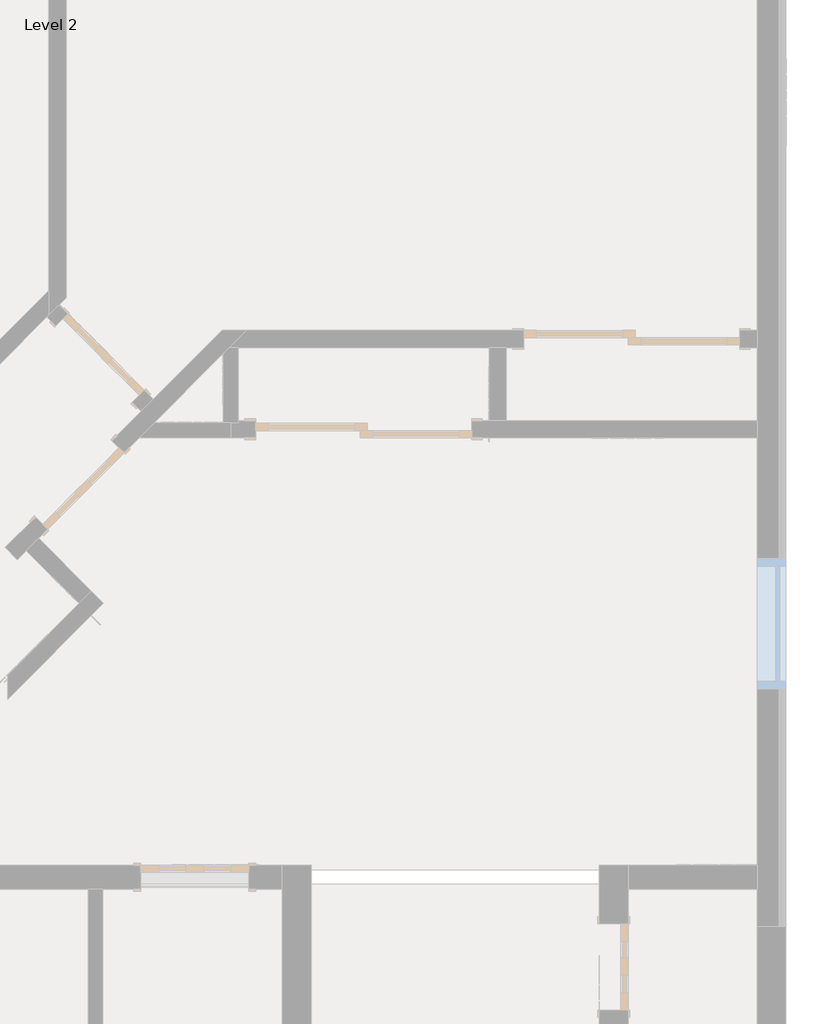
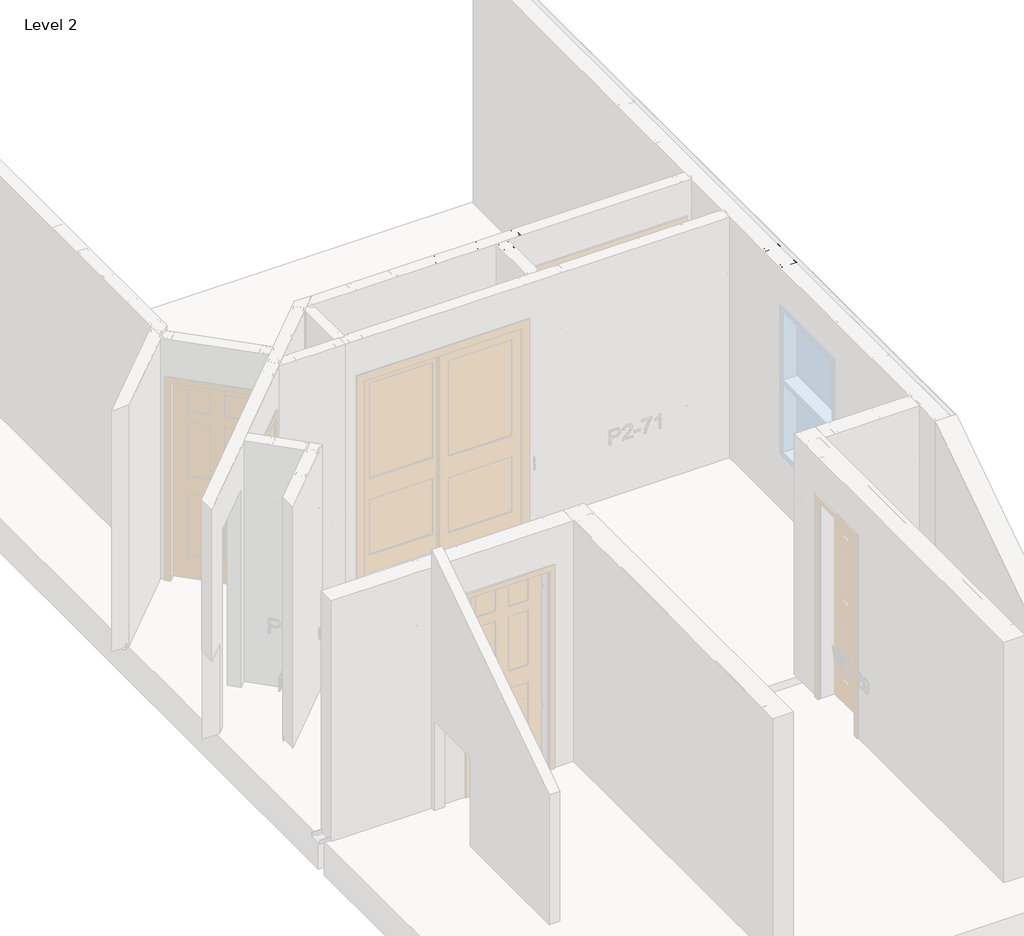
# One storey, part 42 of 46: 7 columns, 1 beam, 1 fastener.
"""IFC4 building model written with IfcOpenShell, lengths in millimetres."""

from ifc_helpers import new_model, si_unit, point, frame, origin, place, context, project, spatial, circle_curve, ellipse_curve, trimmed, transform, mapped, element, save
from ifc_brep_helpers import plane_surface, extruded_surface, advanced_brep
from components import beam_550nf150_43_f91dca98, column_350nf150_33_a93e9d8a, panellabel_e37a929f

model = new_model("IFC4")

# Units and contexts
model_context = context("Model", 3, world=origin())
ifc_project = project(units=[si_unit("LENGTHUNIT", "METRE", prefix="MILLI")], contexts=[model_context])

# Site, building, storey
site = spatial("IfcSite", under=ifc_project)
building = spatial("IfcBuilding", under=site)
storey = spatial("IfcBuildingStorey", under=building, Name="Level 2", Elevation=3060.7)

# Beam
placement = place(None, origin())
beam_550nf150_43_shape = beam_550nf150_43_f91dca98(model_context)
element("IfcBeam", 1, ObjectType="BIMSF-SSMA-S : 550NF150-43", at=placement, inside=storey, context=model_context, shape_type="MappedRepresentation", body=[
    mapped(beam_550nf150_43_shape, transform((-3141.7913349, 8242.9332511, 3600.45), x_axis=(0.0, -1.0, 0.0), y_axis=(0.0, 0.0, 1.0), z_axis=(-1.0, 0.0, 0.0))),
])

# Columns
element("IfcColumn", 2, ObjectType="BIMSF-SSMA-S-Column : 350NF150-33", at=placement, inside=storey, context=model_context, shape_type="AdvancedBrep", body=[
    advanced_brep(
    [(-5691.4118616, 10206.6707511, 3061.5929687), (-5691.4118616, 10295.5707511, 3061.5929687), (-5653.3118616, 10295.5707511, 3061.5929687), (-5653.3118616, 10289.9132353, 3061.5929687), (-5654.1941774, 10289.9132353, 3061.5929687), (-5654.1941774, 10294.6884353, 3061.5929687), (-5690.5295459, 10294.6884353, 3061.5929687), (-5690.5295459, 10207.5530669, 3061.5929687), (-5654.1941774, 10207.5530669, 3061.5929687), (-5654.1941774, 10212.3282669, 3061.5929687), (-5653.3118616, 10212.3282669, 3061.5929687), (-5653.3118616, 10206.6707511, 3061.5929687), (-5691.4118616, 10206.6707511, 5523.6070313), (-5691.4118616, 10295.5707511, 5523.6070313), (-5691.4118616, 10263.8207511, 3671.1929688), (-5691.4118616, 10238.4207511, 3671.1929688), (-5691.4118616, 10263.8207511, 4890.3929687), (-5691.4118616, 10238.4207511, 4890.3929687), (-5653.3118616, 10295.5707511, 5523.6070313), (-5653.3118616, 10289.9132353, 5523.6070313), (-5654.1941774, 10289.9132353, 5523.6070313), (-5654.1941774, 10294.6884353, 5523.6070313), (-5690.5295459, 10294.6884353, 5523.6070313), (-5690.5295459, 10207.5530669, 5523.6070313), (-5690.5295459, 10238.4207511, 3671.1929688), (-5690.5295459, 10263.8207511, 3671.1929688), (-5690.5295459, 10238.4207511, 4890.3929687), (-5690.5295459, 10263.8207511, 4890.3929687), (-5654.1941774, 10207.5530669, 5523.6070313), (-5654.1941774, 10212.3282669, 5523.6070313), (-5653.3118616, 10212.3282669, 5523.6070313), (-5653.3118616, 10206.6707511, 5523.6070313)],
    [
        (0, 1),
        (1, 2),
        (2, 3),
        (3, 4),
        (4, 5),
        (5, 6),
        (6, 7),
        (7, 8),
        (8, 9),
        (9, 10),
        (10, 11),
        (11, 0),
        (0, 12),
        (12, 13),
        (13, 1),
        (14, 15, circle_curve(frame((-5691.4118616, 10251.1207511, 3671.1929687), z_axis=(1.0, 0.0, 0.0), x_axis=(0.0, 1.0, 0.0)), 12.7)),
        (15, 14, circle_curve(frame((-5691.4118616, 10251.1207511, 3671.1929687), z_axis=(1.0, 0.0, 0.0), x_axis=(0.0, 1.0, 0.0)), 12.7)),
        (16, 17, circle_curve(frame((-5691.4118616, 10251.1207511, 4890.3929687), z_axis=(1.0, 0.0, 0.0), x_axis=(0.0, 1.0, 0.0)), 12.7)),
        (17, 16, circle_curve(frame((-5691.4118616, 10251.1207511, 4890.3929687), z_axis=(1.0, 0.0, 0.0), x_axis=(0.0, 1.0, 0.0)), 12.7)),
        (13, 18),
        (18, 2),
        (18, 19),
        (19, 3),
        (19, 20),
        (20, 4),
        (20, 21),
        (21, 5),
        (21, 22),
        (22, 6),
        (22, 23),
        (23, 7),
        (24, 25, circle_curve(frame((-5690.5295459, 10251.1207511, 3671.1929688), z_axis=(-1.0, 0.0, 0.0), x_axis=(0.0, 1.0, 0.0)), 12.7)),
        (25, 24, circle_curve(frame((-5690.5295459, 10251.1207511, 3671.1929688), z_axis=(-1.0, 0.0, 0.0), x_axis=(0.0, 1.0, 0.0)), 12.7)),
        (26, 27, circle_curve(frame((-5690.5295459, 10251.1207511, 4890.3929687), z_axis=(-1.0, 0.0, 0.0), x_axis=(0.0, 1.0, 0.0)), 12.7)),
        (27, 26, circle_curve(frame((-5690.5295459, 10251.1207511, 4890.3929687), z_axis=(-1.0, 0.0, 0.0), x_axis=(0.0, 1.0, 0.0)), 12.7)),
        (23, 28),
        (28, 8),
        (28, 29),
        (29, 9),
        (29, 30),
        (30, 10),
        (30, 31),
        (31, 11),
        (31, 12),
        (24, 15),
        (14, 25),
        (26, 17),
        (16, 27),
    ],
    [
        plane_surface(frame((-5691.4118616, 10206.6707511, 3061.5929687), z_axis=(0.0, 0.0, -1.0), x_axis=(-1.0, 0.0, 0.0))),
        plane_surface(frame((-5691.4118616, 10295.5707511, 5523.6070313), z_axis=(-1.0, 0.0, 0.0), x_axis=(0.0, 0.0, -1.0))),
        plane_surface(frame((-5653.3118616, 10295.5707511, 5523.6070313), z_axis=(0.0, 1.0, 0.0), x_axis=(0.0, 0.0, -1.0))),
        plane_surface(frame((-5653.3118616, 10289.9132353, 5523.6070313), z_axis=(1.0, 0.0, 0.0), x_axis=(0.0, 0.0, -1.0))),
        plane_surface(frame((-5654.1941774, 10289.9132353, 5523.6070313), z_axis=(0.0, -1.0, 0.0), x_axis=(0.0, 0.0, -1.0))),
        plane_surface(frame((-5654.1941774, 10294.6884353, 5523.6070313), z_axis=(-1.0, 0.0, 0.0), x_axis=(0.0, 0.0, -1.0))),
        plane_surface(frame((-5690.5295459, 10294.6884353, 5523.6070313), z_axis=(0.0, -1.0, 0.0), x_axis=(0.0, 0.0, -1.0))),
        plane_surface(frame((-5690.5295459, 10207.5530669, 5523.6070313), z_axis=(1.0, 0.0, 0.0), x_axis=(0.0, 0.0, -1.0))),
        plane_surface(frame((-5654.1941774, 10207.5530669, 5523.6070313), z_axis=(0.0, 1.0, 0.0), x_axis=(0.0, 0.0, -1.0))),
        plane_surface(frame((-5654.1941774, 10212.3282669, 5523.6070313), z_axis=(-1.0, 0.0, 0.0), x_axis=(0.0, 0.0, -1.0))),
        plane_surface(frame((-5653.3118616, 10212.3282669, 5523.6070313), z_axis=(0.0, 1.0, 0.0), x_axis=(0.0, 0.0, -1.0))),
        plane_surface(frame((-5653.3118616, 10206.6707511, 5523.6070313), z_axis=(1.0, 0.0, 0.0), x_axis=(0.0, 0.0, -1.0))),
        plane_surface(frame((-5691.4118616, 10206.6707511, 5523.6070313), z_axis=(0.0, -1.0, 0.0), x_axis=(0.0, 0.0, -1.0))),
        plane_surface(frame((-5691.4118616, 10206.6707511, 5523.6070313), z_axis=(0.0, 0.0, 1.0), x_axis=(1.0, 0.0, 0.0))),
        extruded_surface(trimmed(ellipse_curve(frame((-3210.3477991, 10251.1207511, 3671.1929688), z_axis=(-1.0, 0.0, 0.0), x_axis=(0.0, 1.0, 0.0)), 12.7, 12.7), [point((-3210.3477991, 10238.4207511, 3671.1929688))], [point((-3210.3477991, 10263.8207511, 3671.1929688))], True, "CARTESIAN"), (4924.028125, 0.0, 0.0), 4924.028125),
        extruded_surface(trimmed(ellipse_curve(frame((-3210.3477991, 10251.1207511, 3671.1929688), z_axis=(-1.0, 0.0, 0.0), x_axis=(0.0, 1.0, 0.0)), 12.7, 12.7), [point((-3210.3477991, 10263.8207511, 3671.1929688))], [point((-3210.3477991, 10238.4207511, 3671.1929688))], True, "CARTESIAN"), (4924.028125, 0.0, 0.0), 4924.028125),
        extruded_surface(trimmed(ellipse_curve(frame((-3210.3477991, 10251.1207511, 4890.3929687), z_axis=(-1.0, 0.0, 0.0), x_axis=(0.0, 1.0, 0.0)), 12.7, 12.7), [point((-3210.3477991, 10238.4207511, 4890.3929687))], [point((-3210.3477991, 10263.8207511, 4890.3929687))], True, "CARTESIAN"), (4924.028125, 0.0, 0.0), 4924.028125),
        extruded_surface(trimmed(ellipse_curve(frame((-3210.3477991, 10251.1207511, 4890.3929687), z_axis=(-1.0, 0.0, 0.0), x_axis=(0.0, 1.0, 0.0)), 12.7, 12.7), [point((-3210.3477991, 10263.8207511, 4890.3929687))], [point((-3210.3477991, 10238.4207511, 4890.3929687))], True, "CARTESIAN"), (4924.028125, 0.0, 0.0), 4924.028125),
    ],
    [
        (0, [[1, 2, 3, 4, 5, 6, 7, 8, 9, 10, 11, 12]]),
        (1, [[-1, 13, 14, 15], [16, 17], [18, 19]]),
        (2, [[-2, -15, 20, 21]]),
        (3, [[-3, -21, 22, 23]]),
        (4, [[-4, -23, 24, 25]]),
        (5, [[-5, -25, 26, 27]]),
        (6, [[-6, -27, 28, 29]]),
        (7, [[-7, -29, 30, 31], [32, 33], [34, 35]]),
        (8, [[-8, -31, 36, 37]]),
        (9, [[-9, -37, 38, 39]]),
        (10, [[-10, -39, 40, 41]]),
        (11, [[-11, -41, 42, 43]]),
        (12, [[-12, -43, 44, -13]]),
        (13, [[-14, -44, -42, -40, -38, -36, -30, -28, -26, -24, -22, -20]]),
        (14, [[45, -16, 46, -32]]),
        (15, [[-45, -33, -46, -17]]),
        (16, [[47, -18, 48, -34]]),
        (17, [[-47, -35, -48, -19]]),
    ],
),
])
element("IfcColumn", 3, ObjectType="BIMSF-SSMA-S-Column : 350NF150-33", at=placement, inside=storey, context=model_context, shape_type="AdvancedBrep", body=[
    advanced_brep(
    [(-5285.0118616, 10206.6707511, 3061.5929687), (-5285.0118616, 10295.5707511, 3061.5929687), (-5246.9118616, 10295.5707511, 3061.5929687), (-5246.9118616, 10289.9132353, 3061.5929687), (-5247.7941774, 10289.9132353, 3061.5929687), (-5247.7941774, 10294.6884353, 3061.5929687), (-5284.1295459, 10294.6884353, 3061.5929687), (-5284.1295459, 10207.5530669, 3061.5929687), (-5247.7941774, 10207.5530669, 3061.5929687), (-5247.7941774, 10212.3282669, 3061.5929687), (-5246.9118616, 10212.3282669, 3061.5929687), (-5246.9118616, 10206.6707511, 3061.5929687), (-5285.0118616, 10206.6707511, 5523.6070313), (-5285.0118616, 10295.5707511, 5523.6070313), (-5285.0118616, 10263.8207511, 3671.1929687), (-5285.0118616, 10238.4207511, 3671.1929687), (-5285.0118616, 10263.8207511, 4890.3929687), (-5285.0118616, 10238.4207511, 4890.3929687), (-5246.9118616, 10295.5707511, 5523.6070313), (-5246.9118616, 10289.9132353, 5523.6070313), (-5247.7941774, 10289.9132353, 5523.6070313), (-5247.7941774, 10294.6884353, 5523.6070313), (-5284.1295459, 10294.6884353, 5523.6070313), (-5284.1295459, 10207.5530669, 5523.6070313), (-5284.1295459, 10238.4207511, 3671.1929688), (-5284.1295459, 10263.8207511, 3671.1929688), (-5284.1295459, 10238.4207511, 4890.3929687), (-5284.1295459, 10263.8207511, 4890.3929687), (-5247.7941774, 10207.5530669, 5523.6070313), (-5247.7941774, 10212.3282669, 5523.6070313), (-5246.9118616, 10212.3282669, 5523.6070313), (-5246.9118616, 10206.6707511, 5523.6070313)],
    [
        (0, 1),
        (1, 2),
        (2, 3),
        (3, 4),
        (4, 5),
        (5, 6),
        (6, 7),
        (7, 8),
        (8, 9),
        (9, 10),
        (10, 11),
        (11, 0),
        (0, 12),
        (12, 13),
        (13, 1),
        (14, 15, circle_curve(frame((-5285.0118616, 10251.1207511, 3671.1929687), z_axis=(1.0, 0.0, 0.0), x_axis=(0.0, 1.0, 0.0)), 12.7)),
        (15, 14, circle_curve(frame((-5285.0118616, 10251.1207511, 3671.1929687), z_axis=(1.0, 0.0, 0.0), x_axis=(0.0, 1.0, 0.0)), 12.7)),
        (16, 17, circle_curve(frame((-5285.0118616, 10251.1207511, 4890.3929687), z_axis=(1.0, 0.0, 0.0), x_axis=(0.0, 1.0, 0.0)), 12.7)),
        (17, 16, circle_curve(frame((-5285.0118616, 10251.1207511, 4890.3929687), z_axis=(1.0, 0.0, 0.0), x_axis=(0.0, 1.0, 0.0)), 12.7)),
        (13, 18),
        (18, 2),
        (18, 19),
        (19, 3),
        (19, 20),
        (20, 4),
        (20, 21),
        (21, 5),
        (21, 22),
        (22, 6),
        (22, 23),
        (23, 7),
        (24, 25, circle_curve(frame((-5284.1295459, 10251.1207511, 3671.1929687), z_axis=(-1.0, 0.0, 0.0), x_axis=(0.0, 1.0, 0.0)), 12.7)),
        (25, 24, circle_curve(frame((-5284.1295459, 10251.1207511, 3671.1929687), z_axis=(-1.0, 0.0, 0.0), x_axis=(0.0, 1.0, 0.0)), 12.7)),
        (26, 27, circle_curve(frame((-5284.1295459, 10251.1207511, 4890.3929687), z_axis=(-1.0, 0.0, 0.0), x_axis=(0.0, 1.0, 0.0)), 12.7)),
        (27, 26, circle_curve(frame((-5284.1295459, 10251.1207511, 4890.3929687), z_axis=(-1.0, 0.0, 0.0), x_axis=(0.0, 1.0, 0.0)), 12.7)),
        (23, 28),
        (28, 8),
        (28, 29),
        (29, 9),
        (29, 30),
        (30, 10),
        (30, 31),
        (31, 11),
        (31, 12),
        (24, 15),
        (14, 25),
        (26, 17),
        (16, 27),
    ],
    [
        plane_surface(frame((-5285.0118616, 10206.6707511, 3061.5929687), z_axis=(0.0, 0.0, -1.0), x_axis=(-1.0, 0.0, 0.0))),
        plane_surface(frame((-5285.0118616, 10295.5707511, 5523.6070313), z_axis=(-1.0, 0.0, 0.0), x_axis=(0.0, 0.0, -1.0))),
        plane_surface(frame((-5246.9118616, 10295.5707511, 5523.6070313), z_axis=(0.0, 1.0, 0.0), x_axis=(0.0, 0.0, -1.0))),
        plane_surface(frame((-5246.9118616, 10289.9132353, 5523.6070313), z_axis=(1.0, 0.0, 0.0), x_axis=(0.0, 0.0, -1.0))),
        plane_surface(frame((-5247.7941774, 10289.9132353, 5523.6070313), z_axis=(0.0, -1.0, 0.0), x_axis=(0.0, 0.0, -1.0))),
        plane_surface(frame((-5247.7941774, 10294.6884353, 5523.6070313), z_axis=(-1.0, 0.0, 0.0), x_axis=(0.0, 0.0, -1.0))),
        plane_surface(frame((-5284.1295459, 10294.6884353, 5523.6070313), z_axis=(0.0, -1.0, 0.0), x_axis=(0.0, 0.0, -1.0))),
        plane_surface(frame((-5284.1295459, 10207.5530669, 5523.6070313), z_axis=(1.0, 0.0, 0.0), x_axis=(0.0, 0.0, -1.0))),
        plane_surface(frame((-5247.7941774, 10207.5530669, 5523.6070313), z_axis=(0.0, 1.0, 0.0), x_axis=(0.0, 0.0, -1.0))),
        plane_surface(frame((-5247.7941774, 10212.3282669, 5523.6070313), z_axis=(-1.0, 0.0, 0.0), x_axis=(0.0, 0.0, -1.0))),
        plane_surface(frame((-5246.9118616, 10212.3282669, 5523.6070313), z_axis=(0.0, 1.0, 0.0), x_axis=(0.0, 0.0, -1.0))),
        plane_surface(frame((-5246.9118616, 10206.6707511, 5523.6070313), z_axis=(1.0, 0.0, 0.0), x_axis=(0.0, 0.0, -1.0))),
        plane_surface(frame((-5285.0118616, 10206.6707511, 5523.6070313), z_axis=(0.0, -1.0, 0.0), x_axis=(0.0, 0.0, -1.0))),
        plane_surface(frame((-5285.0118616, 10206.6707511, 5523.6070313), z_axis=(0.0, 0.0, 1.0), x_axis=(1.0, 0.0, 0.0))),
        extruded_surface(trimmed(ellipse_curve(frame((-2803.9477991, 10251.1207511, 3671.1929688), z_axis=(-1.0, 0.0, 0.0), x_axis=(0.0, 1.0, 0.0)), 12.7, 12.7), [point((-2803.9477991, 10238.4207511, 3671.1929688))], [point((-2803.9477991, 10263.8207511, 3671.1929688))], True, "CARTESIAN"), (4924.028125, 0.0, 0.0), 4924.028125),
        extruded_surface(trimmed(ellipse_curve(frame((-2803.9477991, 10251.1207511, 3671.1929688), z_axis=(-1.0, 0.0, 0.0), x_axis=(0.0, 1.0, 0.0)), 12.7, 12.7), [point((-2803.9477991, 10263.8207511, 3671.1929688))], [point((-2803.9477991, 10238.4207511, 3671.1929688))], True, "CARTESIAN"), (4924.028125, 0.0, 0.0), 4924.028125),
        extruded_surface(trimmed(ellipse_curve(frame((-2803.9477991, 10251.1207511, 4890.3929687), z_axis=(-1.0, 0.0, 0.0), x_axis=(0.0, 1.0, 0.0)), 12.7, 12.7), [point((-2803.9477991, 10238.4207511, 4890.3929687))], [point((-2803.9477991, 10263.8207511, 4890.3929687))], True, "CARTESIAN"), (4924.028125, 0.0, 0.0), 4924.028125),
        extruded_surface(trimmed(ellipse_curve(frame((-2803.9477991, 10251.1207511, 4890.3929687), z_axis=(-1.0, 0.0, 0.0), x_axis=(0.0, 1.0, 0.0)), 12.7, 12.7), [point((-2803.9477991, 10263.8207511, 4890.3929687))], [point((-2803.9477991, 10238.4207511, 4890.3929687))], True, "CARTESIAN"), (4924.028125, 0.0, 0.0), 4924.028125),
    ],
    [
        (0, [[1, 2, 3, 4, 5, 6, 7, 8, 9, 10, 11, 12]]),
        (1, [[-1, 13, 14, 15], [16, 17], [18, 19]]),
        (2, [[-2, -15, 20, 21]]),
        (3, [[-3, -21, 22, 23]]),
        (4, [[-4, -23, 24, 25]]),
        (5, [[-5, -25, 26, 27]]),
        (6, [[-6, -27, 28, 29]]),
        (7, [[-7, -29, 30, 31], [32, 33], [34, 35]]),
        (8, [[-8, -31, 36, 37]]),
        (9, [[-9, -37, 38, 39]]),
        (10, [[-10, -39, 40, 41]]),
        (11, [[-11, -41, 42, 43]]),
        (12, [[-12, -43, 44, -13]]),
        (13, [[-14, -44, -42, -40, -38, -36, -30, -28, -26, -24, -22, -20]]),
        (14, [[45, -16, 46, -32]]),
        (15, [[-45, -33, -46, -17]]),
        (16, [[47, -18, 48, -34]]),
        (17, [[-47, -35, -48, -19]]),
    ],
),
])
element("IfcColumn", 4, ObjectType="BIMSF-SSMA-S-Column : 350NF150-33", at=placement, inside=storey, context=model_context, shape_type="AdvancedBrep", body=[
    advanced_brep(
    [(-5103.2731197, 10206.6707511, 3061.5929687), (-5014.3731197, 10206.6707511, 3061.5929687), (-5014.3731197, 10168.5707511, 3061.5929687), (-5020.0306355, 10168.5707511, 3061.5929687), (-5020.0306355, 10169.4530669, 3061.5929687), (-5015.2554355, 10169.4530669, 3061.5929687), (-5015.2554355, 10205.7884353, 3061.5929687), (-5102.3908039, 10205.7884353, 3061.5929687), (-5102.3908039, 10169.4530669, 3061.5929687), (-5097.6156039, 10169.4530669, 3061.5929687), (-5097.6156039, 10168.5707511, 3061.5929687), (-5103.2731197, 10168.5707511, 3061.5929687), (-5103.2731197, 10206.6707511, 5523.6070313), (-5014.3731197, 10206.6707511, 5523.6070313), (-5046.1231197, 10206.6707511, 3671.1929688), (-5071.5231197, 10206.6707511, 3671.1929688), (-5046.1231197, 10206.6707511, 4890.3929687), (-5071.5231197, 10206.6707511, 4890.3929687), (-5014.3731197, 10168.5707511, 5523.6070313), (-5020.0306355, 10168.5707511, 5523.6070313), (-5020.0306355, 10169.4530669, 5523.6070313), (-5015.2554355, 10169.4530669, 5523.6070313), (-5015.2554355, 10205.7884353, 5523.6070313), (-5102.3908039, 10205.7884353, 5523.6070313), (-5071.5231197, 10205.7884353, 3671.1929688), (-5046.1231197, 10205.7884353, 3671.1929688), (-5071.5231197, 10205.7884353, 4890.3929687), (-5046.1231197, 10205.7884353, 4890.3929687), (-5102.3908039, 10169.4530669, 5523.6070313), (-5097.6156039, 10169.4530669, 5523.6070313), (-5097.6156039, 10168.5707511, 5523.6070313), (-5103.2731197, 10168.5707511, 5523.6070313)],
    [
        (0, 1),
        (1, 2),
        (2, 3),
        (3, 4),
        (4, 5),
        (5, 6),
        (6, 7),
        (7, 8),
        (8, 9),
        (9, 10),
        (10, 11),
        (11, 0),
        (0, 12),
        (12, 13),
        (13, 1),
        (14, 15, circle_curve(frame((-5058.8231197, 10206.6707511, 3671.1929687), z_axis=(0.0, -1.0, 0.0), x_axis=(1.0, 0.0, 0.0)), 12.7)),
        (15, 14, circle_curve(frame((-5058.8231197, 10206.6707511, 3671.1929687), z_axis=(0.0, -1.0, 0.0), x_axis=(1.0, 0.0, 0.0)), 12.7)),
        (16, 17, circle_curve(frame((-5058.8231197, 10206.6707511, 4890.3929687), z_axis=(0.0, -1.0, 0.0), x_axis=(1.0, 0.0, 0.0)), 12.7)),
        (17, 16, circle_curve(frame((-5058.8231197, 10206.6707511, 4890.3929687), z_axis=(0.0, -1.0, 0.0), x_axis=(1.0, 0.0, 0.0)), 12.7)),
        (13, 18),
        (18, 2),
        (18, 19),
        (19, 3),
        (19, 20),
        (20, 4),
        (20, 21),
        (21, 5),
        (21, 22),
        (22, 6),
        (22, 23),
        (23, 7),
        (24, 25, circle_curve(frame((-5058.8231197, 10205.7884353, 3671.1929688), z_axis=(0.0, 1.0, 0.0), x_axis=(1.0, 0.0, 0.0)), 12.7)),
        (25, 24, circle_curve(frame((-5058.8231197, 10205.7884353, 3671.1929688), z_axis=(0.0, 1.0, 0.0), x_axis=(1.0, 0.0, 0.0)), 12.7)),
        (26, 27, circle_curve(frame((-5058.8231197, 10205.7884353, 4890.3929687), z_axis=(0.0, 1.0, 0.0), x_axis=(1.0, 0.0, 0.0)), 12.7)),
        (27, 26, circle_curve(frame((-5058.8231197, 10205.7884353, 4890.3929687), z_axis=(0.0, 1.0, 0.0), x_axis=(1.0, 0.0, 0.0)), 12.7)),
        (23, 28),
        (28, 8),
        (28, 29),
        (29, 9),
        (29, 30),
        (30, 10),
        (30, 31),
        (31, 11),
        (31, 12),
        (24, 15),
        (14, 25),
        (26, 17),
        (16, 27),
    ],
    [
        plane_surface(frame((-5103.2731197, 10206.6707511, 3061.5929687), z_axis=(0.0, 0.0, -1.0), x_axis=(0.0, 1.0, 0.0))),
        plane_surface(frame((-5014.3731197, 10206.6707511, 5523.6070313), z_axis=(0.0, 1.0, 0.0), x_axis=(0.0, 0.0, -1.0))),
        plane_surface(frame((-5014.3731197, 10168.5707511, 5523.6070313), z_axis=(1.0, 0.0, 0.0), x_axis=(0.0, 0.0, -1.0))),
        plane_surface(frame((-5020.0306355, 10168.5707511, 5523.6070313), z_axis=(0.0, -1.0, 0.0), x_axis=(0.0, 0.0, -1.0))),
        plane_surface(frame((-5020.0306355, 10169.4530669, 5523.6070313), z_axis=(-1.0, 0.0, 0.0), x_axis=(0.0, 0.0, -1.0))),
        plane_surface(frame((-5015.2554355, 10169.4530669, 5523.6070313), z_axis=(0.0, 1.0, 0.0), x_axis=(0.0, 0.0, -1.0))),
        plane_surface(frame((-5015.2554355, 10205.7884353, 5523.6070313), z_axis=(-1.0, 0.0, 0.0), x_axis=(0.0, 0.0, -1.0))),
        plane_surface(frame((-5102.3908039, 10205.7884353, 5523.6070313), z_axis=(0.0, -1.0, 0.0), x_axis=(0.0, 0.0, -1.0))),
        plane_surface(frame((-5102.3908039, 10169.4530669, 5523.6070313), z_axis=(1.0, 0.0, 0.0), x_axis=(0.0, 0.0, -1.0))),
        plane_surface(frame((-5097.6156039, 10169.4530669, 5523.6070313), z_axis=(0.0, 1.0, 0.0), x_axis=(0.0, 0.0, -1.0))),
        plane_surface(frame((-5097.6156039, 10168.5707511, 5523.6070313), z_axis=(1.0, 0.0, 0.0), x_axis=(0.0, 0.0, -1.0))),
        plane_surface(frame((-5103.2731197, 10168.5707511, 5523.6070313), z_axis=(0.0, -1.0, 0.0), x_axis=(0.0, 0.0, -1.0))),
        plane_surface(frame((-5103.2731197, 10206.6707511, 5523.6070313), z_axis=(-1.0, 0.0, 0.0), x_axis=(0.0, 0.0, -1.0))),
        plane_surface(frame((-5103.2731197, 10206.6707511, 5523.6070313), z_axis=(0.0, 0.0, 1.0), x_axis=(0.0, -1.0, 0.0))),
        extruded_surface(trimmed(ellipse_curve(frame((-5058.8231197, 7725.6066886, 3671.1929688), z_axis=(0.0, 1.0, 0.0), x_axis=(1.0, 0.0, 0.0)), 12.7, 12.7), [point((-5071.5231197, 7725.6066886, 3671.1929688))], [point((-5046.1231197, 7725.6066886, 3671.1929688))], True, "CARTESIAN"), (0.0, -4924.028125, 0.0), 4924.028125),
        extruded_surface(trimmed(ellipse_curve(frame((-5058.8231197, 7725.6066886, 3671.1929688), z_axis=(0.0, 1.0, 0.0), x_axis=(1.0, 0.0, 0.0)), 12.7, 12.7), [point((-5046.1231197, 7725.6066886, 3671.1929688))], [point((-5071.5231197, 7725.6066886, 3671.1929688))], True, "CARTESIAN"), (0.0, -4924.028125, 0.0), 4924.028125),
        extruded_surface(trimmed(ellipse_curve(frame((-5058.8231197, 7725.6066886, 4890.3929687), z_axis=(0.0, 1.0, 0.0), x_axis=(1.0, 0.0, 0.0)), 12.7, 12.7), [point((-5071.5231197, 7725.6066886, 4890.3929687))], [point((-5046.1231197, 7725.6066886, 4890.3929687))], True, "CARTESIAN"), (0.0, -4924.028125, 0.0), 4924.028125),
        extruded_surface(trimmed(ellipse_curve(frame((-5058.8231197, 7725.6066886, 4890.3929687), z_axis=(0.0, 1.0, 0.0), x_axis=(1.0, 0.0, 0.0)), 12.7, 12.7), [point((-5046.1231197, 7725.6066886, 4890.3929687))], [point((-5071.5231197, 7725.6066886, 4890.3929687))], True, "CARTESIAN"), (0.0, -4924.028125, 0.0), 4924.028125),
    ],
    [
        (0, [[1, 2, 3, 4, 5, 6, 7, 8, 9, 10, 11, 12]]),
        (1, [[-1, 13, 14, 15], [16, 17], [18, 19]]),
        (2, [[-2, -15, 20, 21]]),
        (3, [[-3, -21, 22, 23]]),
        (4, [[-4, -23, 24, 25]]),
        (5, [[-5, -25, 26, 27]]),
        (6, [[-6, -27, 28, 29]]),
        (7, [[-7, -29, 30, 31], [32, 33], [34, 35]]),
        (8, [[-8, -31, 36, 37]]),
        (9, [[-9, -37, 38, 39]]),
        (10, [[-10, -39, 40, 41]]),
        (11, [[-11, -41, 42, 43]]),
        (12, [[-12, -43, 44, -13]]),
        (13, [[-14, -44, -42, -40, -38, -36, -30, -28, -26, -24, -22, -20]]),
        (14, [[45, -16, 46, -32]]),
        (15, [[-45, -33, -46, -17]]),
        (16, [[47, -18, 48, -34]]),
        (17, [[-47, -35, -48, -19]]),
    ],
),
])
element("IfcColumn", 5, ObjectType="BIMSF-SSMA-S-Column : 350NF150-33", at=placement, inside=storey, context=model_context, shape_type="AdvancedBrep", body=[
    advanced_brep(
    [(-5014.3731197, 10047.0035298, 3061.5929687), (-5103.2731197, 10047.0035298, 3061.5929687), (-5103.2731197, 10085.1035298, 3061.5929687), (-5097.6156039, 10085.1035298, 3061.5929687), (-5097.6156039, 10084.221214, 3061.5929687), (-5102.3908039, 10084.221214, 3061.5929687), (-5102.3908039, 10047.8858455, 3061.5929687), (-5015.2554355, 10047.8858455, 3061.5929687), (-5015.2554355, 10084.221214, 3061.5929687), (-5020.0306355, 10084.221214, 3061.5929687), (-5020.0306355, 10085.1035298, 3061.5929687), (-5014.3731197, 10085.1035298, 3061.5929687), (-5014.3731197, 10047.0035298, 5523.6070313), (-5103.2731197, 10047.0035298, 5523.6070313), (-5071.5231197, 10047.0035298, 3671.1929688), (-5046.1231197, 10047.0035298, 3671.1929688), (-5071.5231197, 10047.0035298, 4890.3929687), (-5046.1231197, 10047.0035298, 4890.3929687), (-5103.2731197, 10085.1035298, 5523.6070313), (-5097.6156039, 10085.1035298, 5523.6070313), (-5097.6156039, 10084.221214, 5523.6070313), (-5102.3908039, 10084.221214, 5523.6070313), (-5102.3908039, 10047.8858455, 5523.6070313), (-5015.2554355, 10047.8858455, 5523.6070313), (-5046.1231197, 10047.8858455, 3671.1929688), (-5071.5231197, 10047.8858455, 3671.1929688), (-5046.1231197, 10047.8858455, 4890.3929688), (-5071.5231197, 10047.8858455, 4890.3929688), (-5015.2554355, 10084.221214, 5523.6070313), (-5020.0306355, 10084.221214, 5523.6070313), (-5020.0306355, 10085.1035298, 5523.6070313), (-5014.3731197, 10085.1035298, 5523.6070313)],
    [
        (0, 1),
        (1, 2),
        (2, 3),
        (3, 4),
        (4, 5),
        (5, 6),
        (6, 7),
        (7, 8),
        (8, 9),
        (9, 10),
        (10, 11),
        (11, 0),
        (0, 12),
        (12, 13),
        (13, 1),
        (14, 15, circle_curve(frame((-5058.8231197, 10047.0035298, 3671.1929688), z_axis=(0.0, 1.0, 0.0), x_axis=(-1.0, 0.0, 0.0)), 12.7)),
        (15, 14, circle_curve(frame((-5058.8231197, 10047.0035298, 3671.1929688), z_axis=(0.0, 1.0, 0.0), x_axis=(-1.0, 0.0, 0.0)), 12.7)),
        (16, 17, circle_curve(frame((-5058.8231197, 10047.0035298, 4890.3929687), z_axis=(0.0, 1.0, 0.0), x_axis=(-1.0, 0.0, 0.0)), 12.7)),
        (17, 16, circle_curve(frame((-5058.8231197, 10047.0035298, 4890.3929687), z_axis=(0.0, 1.0, 0.0), x_axis=(-1.0, 0.0, 0.0)), 12.7)),
        (13, 18),
        (18, 2),
        (18, 19),
        (19, 3),
        (19, 20),
        (20, 4),
        (20, 21),
        (21, 5),
        (21, 22),
        (22, 6),
        (22, 23),
        (23, 7),
        (24, 25, circle_curve(frame((-5058.8231197, 10047.8858455, 3671.1929687), z_axis=(0.0, -1.0, 0.0), x_axis=(-1.0, 0.0, 0.0)), 12.7)),
        (25, 24, circle_curve(frame((-5058.8231197, 10047.8858455, 3671.1929688), z_axis=(0.0, -1.0, 0.0), x_axis=(-1.0, 0.0, 0.0)), 12.7)),
        (26, 27, circle_curve(frame((-5058.8231197, 10047.8858455, 4890.3929687), z_axis=(0.0, -1.0, 0.0), x_axis=(-1.0, 0.0, 0.0)), 12.7)),
        (27, 26, circle_curve(frame((-5058.8231197, 10047.8858455, 4890.3929687), z_axis=(0.0, -1.0, 0.0), x_axis=(-1.0, 0.0, 0.0)), 12.7)),
        (23, 28),
        (28, 8),
        (28, 29),
        (29, 9),
        (29, 30),
        (30, 10),
        (30, 31),
        (31, 11),
        (31, 12),
        (24, 15),
        (14, 25),
        (26, 17),
        (16, 27),
    ],
    [
        plane_surface(frame((-5014.3731197, 10047.0035298, 3061.5929687), z_axis=(0.0, 0.0, -1.0), x_axis=(0.0, -1.0, 0.0))),
        plane_surface(frame((-5103.2731197, 10047.0035298, 5523.6070313), z_axis=(0.0, -1.0, 0.0), x_axis=(0.0, 0.0, -1.0))),
        plane_surface(frame((-5103.2731197, 10085.1035298, 5523.6070313), z_axis=(-1.0, 0.0, 0.0), x_axis=(0.0, 0.0, -1.0))),
        plane_surface(frame((-5097.6156039, 10085.1035298, 5523.6070313), z_axis=(0.0, 1.0, 0.0), x_axis=(0.0, 0.0, -1.0))),
        plane_surface(frame((-5097.6156039, 10084.221214, 5523.6070313), z_axis=(1.0, 0.0, 0.0), x_axis=(0.0, 0.0, -1.0))),
        plane_surface(frame((-5102.3908039, 10084.221214, 5523.6070313), z_axis=(0.0, -1.0, 0.0), x_axis=(0.0, 0.0, -1.0))),
        plane_surface(frame((-5102.3908039, 10047.8858455, 5523.6070313), z_axis=(1.0, 0.0, 0.0), x_axis=(0.0, 0.0, -1.0))),
        plane_surface(frame((-5015.2554355, 10047.8858455, 5523.6070313), z_axis=(0.0, 1.0, 0.0), x_axis=(0.0, 0.0, -1.0))),
        plane_surface(frame((-5015.2554355, 10084.221214, 5523.6070313), z_axis=(-1.0, 0.0, 0.0), x_axis=(0.0, 0.0, -1.0))),
        plane_surface(frame((-5020.0306355, 10084.221214, 5523.6070313), z_axis=(0.0, -1.0, 0.0), x_axis=(0.0, 0.0, -1.0))),
        plane_surface(frame((-5020.0306355, 10085.1035298, 5523.6070313), z_axis=(-1.0, 0.0, 0.0), x_axis=(0.0, 0.0, -1.0))),
        plane_surface(frame((-5014.3731197, 10085.1035298, 5523.6070313), z_axis=(0.0, 1.0, 0.0), x_axis=(0.0, 0.0, -1.0))),
        plane_surface(frame((-5014.3731197, 10047.0035298, 5523.6070313), z_axis=(1.0, 0.0, 0.0), x_axis=(0.0, 0.0, -1.0))),
        plane_surface(frame((-5014.3731197, 10047.0035298, 5523.6070313), z_axis=(0.0, 0.0, 1.0), x_axis=(0.0, 1.0, 0.0))),
        extruded_surface(trimmed(ellipse_curve(frame((-5058.8231197, 12528.0675923, 3671.1929688), z_axis=(0.0, -1.0, 0.0), x_axis=(-1.0, 0.0, 0.0)), 12.7, 12.7), [point((-5046.1231197, 12528.0675923, 3671.1929688))], [point((-5071.5231197, 12528.0675923, 3671.1929688))], True, "CARTESIAN"), (0.0, 4924.028124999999, 0.0), 4924.028124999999),
        extruded_surface(trimmed(ellipse_curve(frame((-5058.8231197, 12528.0675923, 3671.1929688), z_axis=(0.0, -1.0, 0.0), x_axis=(-1.0, 0.0, 0.0)), 12.7, 12.7), [point((-5071.5231197, 12528.0675923, 3671.1929688))], [point((-5046.1231197, 12528.0675923, 3671.1929688))], True, "CARTESIAN"), (0.0, 4924.028124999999, 0.0), 4924.028124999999),
        extruded_surface(trimmed(ellipse_curve(frame((-5058.8231197, 12528.0675923, 4890.3929687), z_axis=(0.0, -1.0, 0.0), x_axis=(-1.0, 0.0, 0.0)), 12.7, 12.7), [point((-5046.1231197, 12528.0675923, 4890.3929687))], [point((-5071.5231197, 12528.0675923, 4890.3929687))], True, "CARTESIAN"), (0.0, 4924.028124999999, 0.0), 4924.028124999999),
        extruded_surface(trimmed(ellipse_curve(frame((-5058.8231197, 12528.0675923, 4890.3929687), z_axis=(0.0, -1.0, 0.0), x_axis=(-1.0, 0.0, 0.0)), 12.7, 12.7), [point((-5071.5231197, 12528.0675923, 4890.3929687))], [point((-5046.1231197, 12528.0675923, 4890.3929687))], True, "CARTESIAN"), (0.0, 4924.028124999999, 0.0), 4924.028124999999),
    ],
    [
        (0, [[1, 2, 3, 4, 5, 6, 7, 8, 9, 10, 11, 12]]),
        (1, [[-1, 13, 14, 15], [16, 17], [18, 19]]),
        (2, [[-2, -15, 20, 21]]),
        (3, [[-3, -21, 22, 23]]),
        (4, [[-4, -23, 24, 25]]),
        (5, [[-5, -25, 26, 27]]),
        (6, [[-6, -27, 28, 29]]),
        (7, [[-7, -29, 30, 31], [32, 33], [34, 35]]),
        (8, [[-8, -31, 36, 37]]),
        (9, [[-9, -37, 38, 39]]),
        (10, [[-10, -39, 40, 41]]),
        (11, [[-11, -41, 42, 43]]),
        (12, [[-12, -43, 44, -13]]),
        (13, [[-14, -44, -42, -40, -38, -36, -30, -28, -26, -24, -22, -20]]),
        (14, [[45, -16, 46, -32]]),
        (15, [[-45, -33, -46, -17]]),
        (16, [[47, -18, 48, -34]]),
        (17, [[-47, -35, -48, -19]]),
    ],
),
])
column_350nf150_33_shape = column_350nf150_33_a93e9d8a(model_context)
element("IfcColumn", 6, ObjectType="BIMSF-SSMA-S-Column : 350NF150-33", at=placement, inside=storey, context=model_context, shape_type="MappedRepresentation", body=[
    mapped(column_350nf150_33_shape, transform((-4887.3391226, 10240.3836261, 0.0), x_axis=(-1.0, 0.0, 0.0), y_axis=(0.0, -1.0, 0.0), z_axis=(0.0, 0.0, 1.0))),
])
element("IfcColumn", 7, ObjectType="BIMSF-SSMA-S-Column : 550NF150-43", at=placement, inside=storey, context=model_context, shape_type="AdvancedBrep", body=[
    advanced_brep(
    [(-3071.9413349, 8700.1332511, 3061.5929687), (-3211.6413349, 8700.1332511, 3061.5929687), (-3211.6413349, 8738.2332511, 3061.5929687), (-3205.7164507, 8738.2332511, 3061.5929687), (-3205.7164507, 8737.0835669, 3061.5929687), (-3210.4916507, 8737.0835669, 3061.5929687), (-3210.4916507, 8701.2829353, 3061.5929687), (-3073.0910191, 8701.2829353, 3061.5929687), (-3073.0910191, 8737.0835669, 3061.5929687), (-3077.8662191, 8737.0835669, 3061.5929687), (-3077.8662191, 8738.2332511, 3061.5929687), (-3071.9413349, 8738.2332511, 3061.5929687), (-3071.9413349, 8700.1332511, 5523.6070313), (-3211.6413349, 8700.1332511, 5523.6070313), (-3154.4913349, 8700.1332511, 3671.1929687), (-3129.0913349, 8700.1332511, 3671.1929687), (-3154.4913349, 8700.1332511, 4890.3929687), (-3129.0913349, 8700.1332511, 4890.3929687), (-3211.6413349, 8738.2332511, 5523.6070313), (-3205.7164507, 8738.2332511, 5523.6070313), (-3205.7164507, 8737.0835669, 5523.6070313), (-3210.4916507, 8737.0835669, 5523.6070313), (-3210.4916507, 8701.2829353, 5523.6070313), (-3073.0910191, 8701.2829353, 5523.6070313), (-3129.0913349, 8701.2829353, 3671.1929688), (-3154.4913349, 8701.2829353, 3671.1929688), (-3129.0913349, 8701.2829353, 4890.3929687), (-3154.4913349, 8701.2829353, 4890.3929687), (-3073.0910191, 8737.0835669, 5523.6070313), (-3077.8662191, 8737.0835669, 5523.6070313), (-3077.8662191, 8738.2332511, 5523.6070313), (-3071.9413349, 8738.2332511, 5523.6070313)],
    [
        (0, 1),
        (1, 2),
        (2, 3),
        (3, 4),
        (4, 5),
        (5, 6),
        (6, 7),
        (7, 8),
        (8, 9),
        (9, 10),
        (10, 11),
        (11, 0),
        (0, 12),
        (12, 13),
        (13, 1),
        (14, 15, circle_curve(frame((-3141.7913349, 8700.1332511, 3671.1929688), z_axis=(0.0, 1.0, 0.0), x_axis=(-1.0, 0.0, 0.0)), 12.7)),
        (15, 14, circle_curve(frame((-3141.7913349, 8700.1332511, 3671.1929688), z_axis=(0.0, 1.0, 0.0), x_axis=(-1.0, 0.0, 0.0)), 12.7)),
        (16, 17, circle_curve(frame((-3141.7913349, 8700.1332511, 4890.3929687), z_axis=(0.0, 1.0, 0.0), x_axis=(-1.0, 0.0, 0.0)), 12.7)),
        (17, 16, circle_curve(frame((-3141.7913349, 8700.1332511, 4890.3929687), z_axis=(0.0, 1.0, 0.0), x_axis=(-1.0, 0.0, 0.0)), 12.7)),
        (13, 18),
        (18, 2),
        (18, 19),
        (19, 3),
        (19, 20),
        (20, 4),
        (20, 21),
        (21, 5),
        (21, 22),
        (22, 6),
        (22, 23),
        (23, 7),
        (24, 25, circle_curve(frame((-3141.7913349, 8701.2829353, 3671.1929688), z_axis=(0.0, -1.0, 0.0), x_axis=(-1.0, 0.0, 0.0)), 12.7)),
        (25, 24, circle_curve(frame((-3141.7913349, 8701.2829353, 3671.1929688), z_axis=(0.0, -1.0, 0.0), x_axis=(-1.0, 0.0, 0.0)), 12.7)),
        (26, 27, circle_curve(frame((-3141.7913349, 8701.2829353, 4890.3929687), z_axis=(0.0, -1.0, 0.0), x_axis=(-1.0, 0.0, 0.0)), 12.7)),
        (27, 26, circle_curve(frame((-3141.7913349, 8701.2829353, 4890.3929687), z_axis=(0.0, -1.0, 0.0), x_axis=(-1.0, 0.0, 0.0)), 12.7)),
        (23, 28),
        (28, 8),
        (28, 29),
        (29, 9),
        (29, 30),
        (30, 10),
        (30, 31),
        (31, 11),
        (31, 12),
        (24, 15),
        (14, 25),
        (26, 17),
        (16, 27),
    ],
    [
        plane_surface(frame((-3071.9413349, 8700.1332511, 3061.5929687), z_axis=(0.0, 0.0, -1.0), x_axis=(0.0, -1.0, 0.0))),
        plane_surface(frame((-3211.6413349, 8700.1332511, 5523.6070313), z_axis=(0.0, -1.0, 0.0), x_axis=(0.0, 0.0, -1.0))),
        plane_surface(frame((-3211.6413349, 8738.2332511, 5523.6070313), z_axis=(-1.0, 0.0, 0.0), x_axis=(0.0, 0.0, -1.0))),
        plane_surface(frame((-3205.7164507, 8738.2332511, 5523.6070313), z_axis=(0.0, 1.0, 0.0), x_axis=(0.0, 0.0, -1.0))),
        plane_surface(frame((-3205.7164507, 8737.0835669, 5523.6070313), z_axis=(1.0, 0.0, 0.0), x_axis=(0.0, 0.0, -1.0))),
        plane_surface(frame((-3210.4916507, 8737.0835669, 5523.6070313), z_axis=(0.0, -1.0, 0.0), x_axis=(0.0, 0.0, -1.0))),
        plane_surface(frame((-3210.4916507, 8701.2829353, 5523.6070313), z_axis=(1.0, 0.0, 0.0), x_axis=(0.0, 0.0, -1.0))),
        plane_surface(frame((-3073.0910191, 8701.2829353, 5523.6070313), z_axis=(0.0, 1.0, 0.0), x_axis=(0.0, 0.0, -1.0))),
        plane_surface(frame((-3073.0910191, 8737.0835669, 5523.6070313), z_axis=(-1.0, 0.0, 0.0), x_axis=(0.0, 0.0, -1.0))),
        plane_surface(frame((-3077.8662191, 8737.0835669, 5523.6070313), z_axis=(0.0, -1.0, 0.0), x_axis=(0.0, 0.0, -1.0))),
        plane_surface(frame((-3077.8662191, 8738.2332511, 5523.6070313), z_axis=(-1.0, 0.0, 0.0), x_axis=(0.0, 0.0, -1.0))),
        plane_surface(frame((-3071.9413349, 8738.2332511, 5523.6070313), z_axis=(0.0, 1.0, 0.0), x_axis=(0.0, 0.0, -1.0))),
        plane_surface(frame((-3071.9413349, 8700.1332511, 5523.6070313), z_axis=(1.0, 0.0, 0.0), x_axis=(0.0, 0.0, -1.0))),
        plane_surface(frame((-3071.9413349, 8700.1332511, 5523.6070313), z_axis=(0.0, 0.0, 1.0), x_axis=(0.0, 1.0, 0.0))),
        extruded_surface(trimmed(ellipse_curve(frame((-3141.7913349, 11181.1973136, 3671.1929688), z_axis=(0.0, -1.0, 0.0), x_axis=(-1.0, 0.0, 0.0)), 12.7, 12.7), [point((-3129.0913349, 11181.1973136, 3671.1929688))], [point((-3154.4913349, 11181.1973136, 3671.1929688))], True, "CARTESIAN"), (0.0, 4924.028125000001, 0.0), 4924.028125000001),
        extruded_surface(trimmed(ellipse_curve(frame((-3141.7913349, 11181.1973136, 3671.1929688), z_axis=(0.0, -1.0, 0.0), x_axis=(-1.0, 0.0, 0.0)), 12.7, 12.7), [point((-3154.4913349, 11181.1973136, 3671.1929688))], [point((-3129.0913349, 11181.1973136, 3671.1929688))], True, "CARTESIAN"), (0.0, 4924.028125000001, 0.0), 4924.028125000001),
        extruded_surface(trimmed(ellipse_curve(frame((-3141.7913349, 11181.1973136, 4890.3929687), z_axis=(0.0, -1.0, 0.0), x_axis=(-1.0, 0.0, 0.0)), 12.7, 12.7), [point((-3129.0913349, 11181.1973136, 4890.3929687))], [point((-3154.4913349, 11181.1973136, 4890.3929687))], True, "CARTESIAN"), (0.0, 4924.028125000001, 0.0), 4924.028125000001),
        extruded_surface(trimmed(ellipse_curve(frame((-3141.7913349, 11181.1973136, 4890.3929687), z_axis=(0.0, -1.0, 0.0), x_axis=(-1.0, 0.0, 0.0)), 12.7, 12.7), [point((-3154.4913349, 11181.1973136, 4890.3929687))], [point((-3129.0913349, 11181.1973136, 4890.3929687))], True, "CARTESIAN"), (0.0, 4924.028125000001, 0.0), 4924.028125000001),
    ],
    [
        (0, [[1, 2, 3, 4, 5, 6, 7, 8, 9, 10, 11, 12]]),
        (1, [[-1, 13, 14, 15], [16, 17], [18, 19]]),
        (2, [[-2, -15, 20, 21]]),
        (3, [[-3, -21, 22, 23]]),
        (4, [[-4, -23, 24, 25]]),
        (5, [[-5, -25, 26, 27]]),
        (6, [[-6, -27, 28, 29]]),
        (7, [[-7, -29, 30, 31], [32, 33], [34, 35]]),
        (8, [[-8, -31, 36, 37]]),
        (9, [[-9, -37, 38, 39]]),
        (10, [[-10, -39, 40, 41]]),
        (11, [[-11, -41, 42, 43]]),
        (12, [[-12, -43, 44, -13]]),
        (13, [[-14, -44, -42, -40, -38, -36, -30, -28, -26, -24, -22, -20]]),
        (14, [[45, -16, 46, -32]]),
        (15, [[-45, -33, -46, -17]]),
        (16, [[47, -18, 48, -34]]),
        (17, [[-47, -35, -48, -19]]),
    ],
),
])
element("IfcColumn", 8, ObjectType="BIMSF-SSMA-S-Column : 550NF150-43", at=placement, inside=storey, context=model_context, shape_type="AdvancedBrep", body=[
    advanced_brep(
    [(-3071.9413349, 8969.502221, 3061.5929687), (-3211.6413349, 8969.502221, 3061.5929687), (-3211.6413349, 9007.602221, 3061.5929687), (-3205.7164507, 9007.602221, 3061.5929687), (-3205.7164507, 9006.4525367, 3061.5929687), (-3210.4916507, 9006.4525367, 3061.5929687), (-3210.4916507, 8970.6519052, 3061.5929687), (-3073.0910191, 8970.6519052, 3061.5929687), (-3073.0910191, 9006.4525367, 3061.5929687), (-3077.8662191, 9006.4525367, 3061.5929687), (-3077.8662191, 9007.602221, 3061.5929687), (-3071.9413349, 9007.602221, 3061.5929687), (-3071.9413349, 8969.502221, 5523.6070313), (-3211.6413349, 8969.502221, 5523.6070313), (-3154.4913349, 8969.502221, 3671.1929687), (-3129.0913349, 8969.502221, 3671.1929687), (-3154.4913349, 8969.502221, 4890.3929687), (-3129.0913349, 8969.502221, 4890.3929687), (-3211.6413349, 9007.602221, 5523.6070313), (-3205.7164507, 9007.602221, 5523.6070313), (-3205.7164507, 9006.4525367, 5523.6070313), (-3210.4916507, 9006.4525367, 5523.6070313), (-3210.4916507, 8970.6519052, 5523.6070313), (-3073.0910191, 8970.6519052, 5523.6070313), (-3129.0913349, 8970.6519052, 3671.1929688), (-3154.4913349, 8970.6519052, 3671.1929688), (-3129.0913349, 8970.6519052, 4890.3929687), (-3154.4913349, 8970.6519052, 4890.3929687), (-3073.0910191, 9006.4525367, 5523.6070313), (-3077.8662191, 9006.4525367, 5523.6070313), (-3077.8662191, 9007.602221, 5523.6070313), (-3071.9413349, 9007.602221, 5523.6070313)],
    [
        (0, 1),
        (1, 2),
        (2, 3),
        (3, 4),
        (4, 5),
        (5, 6),
        (6, 7),
        (7, 8),
        (8, 9),
        (9, 10),
        (10, 11),
        (11, 0),
        (0, 12),
        (12, 13),
        (13, 1),
        (14, 15, circle_curve(frame((-3141.7913349, 8969.502221, 3671.1929688), z_axis=(0.0, 1.0, 0.0), x_axis=(-1.0, 0.0, 0.0)), 12.7)),
        (15, 14, circle_curve(frame((-3141.7913349, 8969.502221, 3671.1929688), z_axis=(0.0, 1.0, 0.0), x_axis=(-1.0, 0.0, 0.0)), 12.7)),
        (16, 17, circle_curve(frame((-3141.7913349, 8969.502221, 4890.3929687), z_axis=(0.0, 1.0, 0.0), x_axis=(-1.0, 0.0, 0.0)), 12.7)),
        (17, 16, circle_curve(frame((-3141.7913349, 8969.502221, 4890.3929687), z_axis=(0.0, 1.0, 0.0), x_axis=(-1.0, 0.0, 0.0)), 12.7)),
        (13, 18),
        (18, 2),
        (18, 19),
        (19, 3),
        (19, 20),
        (20, 4),
        (20, 21),
        (21, 5),
        (21, 22),
        (22, 6),
        (22, 23),
        (23, 7),
        (24, 25, circle_curve(frame((-3141.7913349, 8970.6519052, 3671.1929688), z_axis=(0.0, -1.0, 0.0), x_axis=(-1.0, 0.0, 0.0)), 12.7)),
        (25, 24, circle_curve(frame((-3141.7913349, 8970.6519052, 3671.1929688), z_axis=(0.0, -1.0, 0.0), x_axis=(-1.0, 0.0, 0.0)), 12.7)),
        (26, 27, circle_curve(frame((-3141.7913349, 8970.6519052, 4890.3929687), z_axis=(0.0, -1.0, 0.0), x_axis=(-1.0, 0.0, 0.0)), 12.7)),
        (27, 26, circle_curve(frame((-3141.7913349, 8970.6519052, 4890.3929687), z_axis=(0.0, -1.0, 0.0), x_axis=(-1.0, 0.0, 0.0)), 12.7)),
        (23, 28),
        (28, 8),
        (28, 29),
        (29, 9),
        (29, 30),
        (30, 10),
        (30, 31),
        (31, 11),
        (31, 12),
        (24, 15),
        (14, 25),
        (26, 17),
        (16, 27),
    ],
    [
        plane_surface(frame((-3071.9413349, 8969.502221, 3061.5929687), z_axis=(0.0, 0.0, -1.0), x_axis=(0.0, -1.0, 0.0))),
        plane_surface(frame((-3211.6413349, 8969.502221, 5523.6070313), z_axis=(0.0, -1.0, 0.0), x_axis=(0.0, 0.0, -1.0))),
        plane_surface(frame((-3211.6413349, 9007.602221, 5523.6070313), z_axis=(-1.0, 0.0, 0.0), x_axis=(0.0, 0.0, -1.0))),
        plane_surface(frame((-3205.7164507, 9007.602221, 5523.6070313), z_axis=(0.0, 1.0, 0.0), x_axis=(0.0, 0.0, -1.0))),
        plane_surface(frame((-3205.7164507, 9006.4525367, 5523.6070313), z_axis=(1.0, 0.0, 0.0), x_axis=(0.0, 0.0, -1.0))),
        plane_surface(frame((-3210.4916507, 9006.4525367, 5523.6070313), z_axis=(0.0, -1.0, 0.0), x_axis=(0.0, 0.0, -1.0))),
        plane_surface(frame((-3210.4916507, 8970.6519052, 5523.6070313), z_axis=(1.0, 0.0, 0.0), x_axis=(0.0, 0.0, -1.0))),
        plane_surface(frame((-3073.0910191, 8970.6519052, 5523.6070313), z_axis=(0.0, 1.0, 0.0), x_axis=(0.0, 0.0, -1.0))),
        plane_surface(frame((-3073.0910191, 9006.4525367, 5523.6070313), z_axis=(-1.0, 0.0, 0.0), x_axis=(0.0, 0.0, -1.0))),
        plane_surface(frame((-3077.8662191, 9006.4525367, 5523.6070313), z_axis=(0.0, -1.0, 0.0), x_axis=(0.0, 0.0, -1.0))),
        plane_surface(frame((-3077.8662191, 9007.602221, 5523.6070313), z_axis=(-1.0, 0.0, 0.0), x_axis=(0.0, 0.0, -1.0))),
        plane_surface(frame((-3071.9413349, 9007.602221, 5523.6070313), z_axis=(0.0, 1.0, 0.0), x_axis=(0.0, 0.0, -1.0))),
        plane_surface(frame((-3071.9413349, 8969.502221, 5523.6070313), z_axis=(1.0, 0.0, 0.0), x_axis=(0.0, 0.0, -1.0))),
        plane_surface(frame((-3071.9413349, 8969.502221, 5523.6070313), z_axis=(0.0, 0.0, 1.0), x_axis=(0.0, 1.0, 0.0))),
        extruded_surface(trimmed(ellipse_curve(frame((-3141.7913349, 11450.5662835, 3671.1929688), z_axis=(0.0, -1.0, 0.0), x_axis=(-1.0, 0.0, 0.0)), 12.7, 12.7), [point((-3129.0913349, 11450.5662835, 3671.1929688))], [point((-3154.4913349, 11450.5662835, 3671.1929688))], True, "CARTESIAN"), (0.0, 4924.028124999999, 0.0), 4924.028124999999),
        extruded_surface(trimmed(ellipse_curve(frame((-3141.7913349, 11450.5662835, 3671.1929688), z_axis=(0.0, -1.0, 0.0), x_axis=(-1.0, 0.0, 0.0)), 12.7, 12.7), [point((-3154.4913349, 11450.5662835, 3671.1929688))], [point((-3129.0913349, 11450.5662835, 3671.1929688))], True, "CARTESIAN"), (0.0, 4924.028124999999, 0.0), 4924.028124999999),
        extruded_surface(trimmed(ellipse_curve(frame((-3141.7913349, 11450.5662835, 4890.3929687), z_axis=(0.0, -1.0, 0.0), x_axis=(-1.0, 0.0, 0.0)), 12.7, 12.7), [point((-3129.0913349, 11450.5662835, 4890.3929687))], [point((-3154.4913349, 11450.5662835, 4890.3929687))], True, "CARTESIAN"), (0.0, 4924.028124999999, 0.0), 4924.028124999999),
        extruded_surface(trimmed(ellipse_curve(frame((-3141.7913349, 11450.5662835, 4890.3929687), z_axis=(0.0, -1.0, 0.0), x_axis=(-1.0, 0.0, 0.0)), 12.7, 12.7), [point((-3154.4913349, 11450.5662835, 4890.3929687))], [point((-3129.0913349, 11450.5662835, 4890.3929687))], True, "CARTESIAN"), (0.0, 4924.028124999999, 0.0), 4924.028124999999),
    ],
    [
        (0, [[1, 2, 3, 4, 5, 6, 7, 8, 9, 10, 11, 12]]),
        (1, [[-1, 13, 14, 15], [16, 17], [18, 19]]),
        (2, [[-2, -15, 20, 21]]),
        (3, [[-3, -21, 22, 23]]),
        (4, [[-4, -23, 24, 25]]),
        (5, [[-5, -25, 26, 27]]),
        (6, [[-6, -27, 28, 29]]),
        (7, [[-7, -29, 30, 31], [32, 33], [34, 35]]),
        (8, [[-8, -31, 36, 37]]),
        (9, [[-9, -37, 38, 39]]),
        (10, [[-10, -39, 40, 41]]),
        (11, [[-11, -41, 42, 43]]),
        (12, [[-12, -43, 44, -13]]),
        (13, [[-14, -44, -42, -40, -38, -36, -30, -28, -26, -24, -22, -20]]),
        (14, [[45, -16, 46, -32]]),
        (15, [[-45, -33, -46, -17]]),
        (16, [[47, -18, 48, -34]]),
        (17, [[-47, -35, -48, -19]]),
    ],
),
])

# Fastener
panellabel_shape = panellabel_e37a929f(model_context)
element("IfcFastener", 9, ObjectType="PanelLabel : Miranda", at=placement, inside=storey, context=model_context, shape_type="MappedRepresentation", body=[
    mapped(panellabel_shape, transform((-5971.5817299, 10251.1207511, 2289.5386234), x_axis=(1.0, 0.0, 0.0), y_axis=(0.0, 1.0, 0.0), z_axis=(0.0, 0.0, 1.0))),
])

save(model, "model.ifc")
